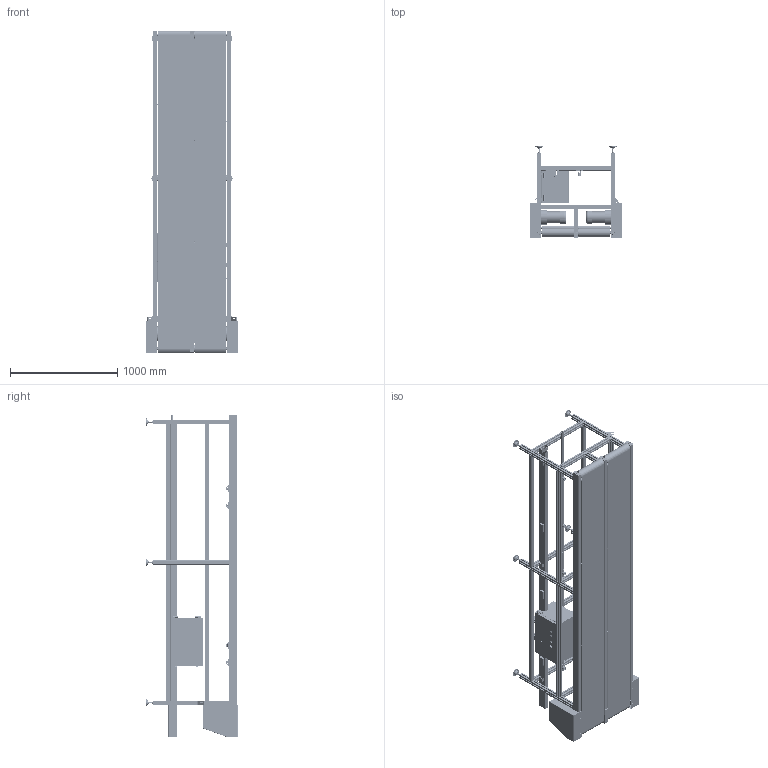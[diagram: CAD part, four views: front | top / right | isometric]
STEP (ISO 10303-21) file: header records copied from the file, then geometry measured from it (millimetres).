
FILE_DESCRIPTION(/* description */ (''),/* implementation_level */ '2;1');
FILE_NAME(/* name */ 'beltconveyor_a066_w300_l3000.stp',/* time_stamp */ '2024-12-26T22:23:18+08:00',/* author */ (''),/* organization */ (''),/* preprocessor_version */ 'ST-DEVELOPER v16.7',/* originating_system */ 'SIEMENS PLM Software NX 12.0',/* authorisation */ '');
FILE_SCHEMA (('AUTOMOTIVE_DESIGN { 1 0 10303 214 3 1 1 1 }'));
Products named in the file (1): beltconveyor_a066_w300_l3000
Bounding box: 864 x 860 x 3004.5 mm (x, y, z)
Volume: 45844094.3 mm3; surface area: 34154750.4 mm2
Topology: 365 solids, 365 shells, 8633 faces, 23282 edges, 15092 vertices
Faces by surface type: plane 4896, cylinder 1963, extrusion 738, cone 436, torus 228, sphere 220, bspline 152
Entity records: 289324 total; most frequent: CARTESIAN_POINT 73938, ORIENTED_EDGE 45672, DIRECTION 41170, EDGE_CURVE 22836, VECTOR 15166, VERTEX_POINT 15092, LINE 14428, AXIS2_PLACEMENT_3D 13002
